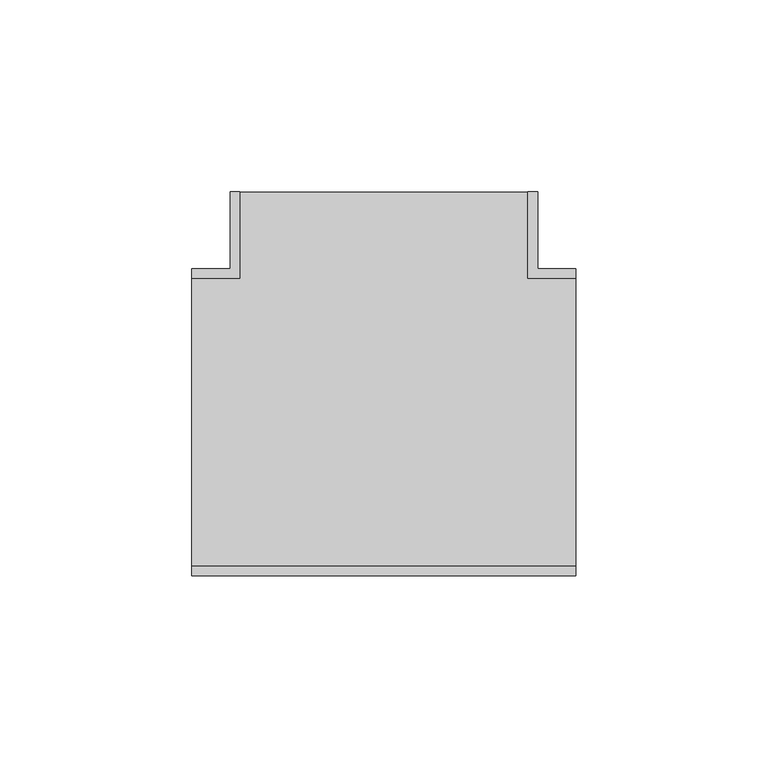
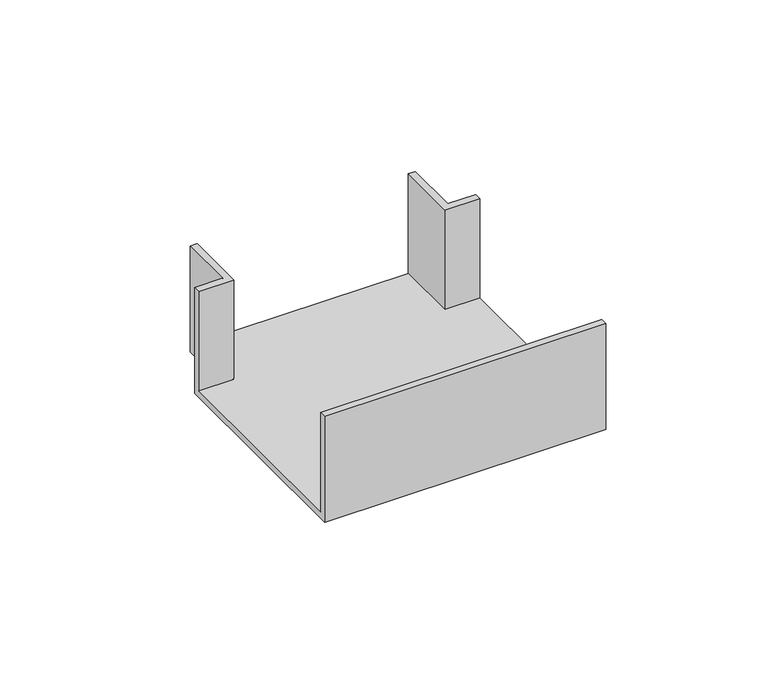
"""IFC4 building model written with IfcOpenShell, lengths in millimetres: cable carrier fitting geometry, КНС_ТройникNTAN_ILC_DKC : Тройник/отвод."""

from ifc_helpers import new_model, si_unit, origin, place, context, project, spatial, faceted_brep, source, transform, mapped, element, save


def cable_carrier_fitting_740a72c5(model_context):
    return source(origin(), model_context, "Body", "Brep", [
        faceted_brep([(50.0, -37.5, -17.5), (50.0, 37.5, -17.5), (37.5, 37.5, -17.5), (37.5, 60.0, -17.5), (-37.5, 60.0, -17.5), (-37.5, 37.5, -17.5), (-50.0, 37.5, -17.5), (-50.0, -37.5, -17.5), (50.0, -40.0, -20.0), (-50.0, -40.0, -20.0), (-50.0, 40.0, -20.0), (-40.0, 40.0, -20.0), (-40.0, 60.0, -20.0), (40.0, 60.0, -20.0), (40.0, 40.0, -20.0), (50.0, 40.0, -20.0), (50.0, 40.0, 20.0), (50.0, 37.5, 20.0), (50.0, -37.5, 20.0), (50.0, -40.0, 20.0), (40.0, 40.0, 20.0), (40.0, 60.0, 20.0), (-40.0, 60.0, 20.0), (-37.5, 60.0, 20.0), (37.5, 60.0, 20.0), (-40.0, 40.0, 20.0), (-50.0, 40.0, 20.0), (-50.0, -40.0, 20.0), (-50.0, -37.5, 20.0), (-50.0, 37.5, 20.0), (37.5, 37.5, 20.0), (-37.5, 37.5, 20.0)], [[[0, 1, 2, 3, 4, 5, 6, 7]], [[8, 9, 10, 11, 12, 13, 14, 15]], [[8, 15, 16, 17, 1, 0, 18, 19]], [[16, 15, 14, 20]], [[20, 14, 13, 21]], [[21, 13, 12, 22, 23, 4, 3, 24]], [[22, 12, 11, 25]], [[25, 11, 10, 26]], [[26, 10, 9, 27, 28, 7, 6, 29]], [[27, 9, 8, 19]], [[20, 21, 24, 30, 17, 16]], [[25, 26, 29, 31, 23, 22]], [[27, 19, 18, 28]], [[31, 29, 6, 5]], [[23, 31, 5, 4]], [[30, 24, 3, 2]], [[17, 30, 2, 1]], [[28, 18, 0, 7]]]),
    ])


if __name__ == "__main__":
    model = new_model("IFC4")
    model_context = context("Model", 3, world=origin())
    ifc_project = project(units=[si_unit("LENGTHUNIT", "METRE", prefix="MILLI")], contexts=[model_context])
    site = spatial("IfcSite", under=ifc_project)
    building = spatial("IfcBuilding", under=site)
    placement = place(None, origin())
    cable_carrier_fitting_shape = cable_carrier_fitting_740a72c5(model_context)
    element("IfcCableCarrierFitting", 1, ObjectType="КНС_ТройникNTAN_ILC_DKC : Тройник/отвод", at=placement, inside=building, context=model_context, shape_type="MappedRepresentation", body=[
        mapped(cable_carrier_fitting_shape, transform((0.0, 0.0, 0.0), x_axis=(1.0, 0.0, 0.0), y_axis=(0.0, 1.0, 0.0), z_axis=(0.0, 0.0, 1.0))),
    ])
    save(model, "model.ifc")
